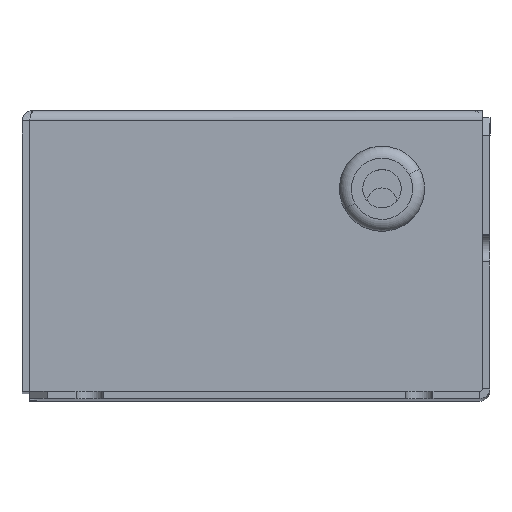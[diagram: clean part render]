
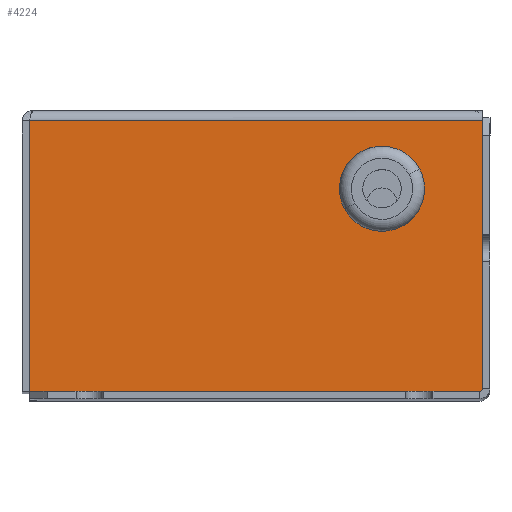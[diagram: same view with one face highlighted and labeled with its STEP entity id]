
A CAD part, top view. The second image highlights one B-rep face of the part: STEP entity #4224.
In plain terms, the highlighted planar face has unit normal (0, 0, 1) as drawn and (0, 0, -1) by its records, which use the part's own axes.
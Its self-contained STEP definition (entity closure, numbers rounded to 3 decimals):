
#23 = LINE ( 'NONE', #9194, #1070 ) ;
#86 = ORIENTED_EDGE ( 'NONE', *, *, #10694, .T. ) ;
#1070 = VECTOR ( 'NONE', #10119, 1000. ) ;
#1314 = DIRECTION ( 'NONE',  ( 0., -1., 0. ) ) ;
#1877 = CARTESIAN_POINT ( 'NONE',  ( 0., 0., -210. ) ) ;
#1918 = VERTEX_POINT ( 'NONE', #8935 ) ;
#1944 = DIRECTION ( 'NONE',  ( 0., 1., 0. ) ) ;
#2082 = CARTESIAN_POINT ( 'NONE',  ( 16.8, -11.8, -210. ) ) ;
#2118 = CARTESIAN_POINT ( 'NONE',  ( 16.8, -6.8, -210. ) ) ;
#2154 = FACE_OUTER_BOUND ( 'NONE', #11005, .T. ) ;
#2181 = VECTOR ( 'NONE', #9416, 1000. ) ;
#2630 = VECTOR ( 'NONE', #8480, 1000. ) ;
#2904 = EDGE_CURVE ( 'NONE', #4019, #5551, #4276, .T. ) ;
#3056 = AXIS2_PLACEMENT_3D ( 'NONE', #7621, #10511, #1944 ) ;
#3170 = VERTEX_POINT ( 'NONE', #9996 ) ;
#3518 = LINE ( 'NONE', #1877, #2630 ) ;
#3573 = EDGE_CURVE ( 'NONE', #3170, #6892, #4850, .T. ) ;
#3935 = CARTESIAN_POINT ( 'NONE',  ( 75.529, -45.6, -210. ) ) ;
#4019 = VERTEX_POINT ( 'NONE', #2118 ) ;
#4186 = VECTOR ( 'NONE', #4490, 1000. ) ;
#4224 = ADVANCED_FACE ( 'NONE', ( #9764, #2154 ), #10053, .F. ) ;
#4276 = CIRCLE ( 'NONE', #3056, 5. ) ;
#4490 = DIRECTION ( 'NONE',  ( -1., 0., 0. ) ) ;
#4660 = DIRECTION ( 'NONE',  ( 0., 0., -1. ) ) ;
#4850 = LINE ( 'NONE', #7500, #2181 ) ;
#4871 = ORIENTED_EDGE ( 'NONE', *, *, #5505, .F. ) ;
#5123 = CARTESIAN_POINT ( 'NONE',  ( 76.8, 0., -210. ) ) ;
#5354 = CARTESIAN_POINT ( 'NONE',  ( 76.8, -45.6, -210. ) ) ;
#5505 = EDGE_CURVE ( 'NONE', #5551, #4019, #9159, .T. ) ;
#5551 = VERTEX_POINT ( 'NONE', #11845 ) ;
#5941 = ORIENTED_EDGE ( 'NONE', *, *, #2904, .F. ) ;
#6307 = CARTESIAN_POINT ( 'NONE',  ( 0., -0.5, -210. ) ) ;
#6485 = EDGE_LOOP ( 'NONE', ( #5941, #4871 ) ) ;
#6892 = VERTEX_POINT ( 'NONE', #6307 ) ;
#7030 = DIRECTION ( 'NONE',  ( 0., 0., 1. ) ) ;
#7057 = EDGE_CURVE ( 'NONE', #1918, #6892, #3518, .T. ) ;
#7500 = CARTESIAN_POINT ( 'NONE',  ( 0., -0.5, -210. ) ) ;
#7621 = CARTESIAN_POINT ( 'NONE',  ( 16.8, -11.8, -210. ) ) ;
#8399 = AXIS2_PLACEMENT_3D ( 'NONE', #2082, #4660, #11641 ) ;
#8480 = DIRECTION ( 'NONE',  ( 0., 1., 0. ) ) ;
#8754 = AXIS2_PLACEMENT_3D ( 'NONE', #5123, #7030, #1314 ) ;
#8908 = ORIENTED_EDGE ( 'NONE', *, *, #3573, .F. ) ;
#8935 = CARTESIAN_POINT ( 'NONE',  ( 0., -45.6, -210. ) ) ;
#9159 = CIRCLE ( 'NONE', #8399, 5. ) ;
#9194 = CARTESIAN_POINT ( 'NONE',  ( 75.529, 0., -210. ) ) ;
#9416 = DIRECTION ( 'NONE',  ( -1., 0., 0. ) ) ;
#9764 = FACE_BOUND ( 'NONE', #6485, .T. ) ;
#9832 = ORIENTED_EDGE ( 'NONE', *, *, #9988, .T. ) ;
#9988 = EDGE_CURVE ( 'NONE', #3170, #11035, #23, .T. ) ;
#9996 = CARTESIAN_POINT ( 'NONE',  ( 75.529, -0.5, -210. ) ) ;
#10053 = PLANE ( 'NONE',  #8754 ) ;
#10119 = DIRECTION ( 'NONE',  ( 0., -1., 0. ) ) ;
#10355 = LINE ( 'NONE', #5354, #4186 ) ;
#10511 = DIRECTION ( 'NONE',  ( 0., 0., -1. ) ) ;
#10694 = EDGE_CURVE ( 'NONE', #11035, #1918, #10355, .T. ) ;
#11005 = EDGE_LOOP ( 'NONE', ( #8908, #9832, #86, #11999 ) ) ;
#11035 = VERTEX_POINT ( 'NONE', #3935 ) ;
#11641 = DIRECTION ( 'NONE',  ( 0., 1., 0. ) ) ;
#11845 = CARTESIAN_POINT ( 'NONE',  ( 16.8, -16.8, -210. ) ) ;
#11999 = ORIENTED_EDGE ( 'NONE', *, *, #7057, .T. ) ;
